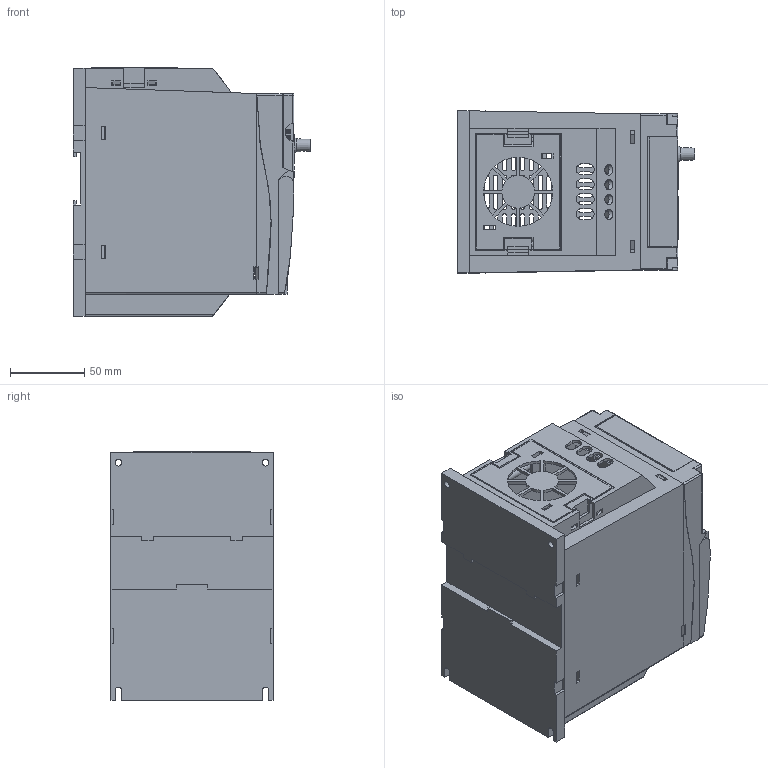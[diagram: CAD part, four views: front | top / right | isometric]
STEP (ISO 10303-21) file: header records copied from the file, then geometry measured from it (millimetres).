
FILE_DESCRIPTION(('STEP AP214'), '1');
FILE_NAME('Ïðåîáðàçîâàòåëü ÷àñòîòû _ MCI-G1.5-4B', '', ('UNSPECIFIED'), ('UNSPECIFIED'), 'C3D Converter', 'C3D Toolkit', '');
FILE_SCHEMA(('AUTOMOTIVE_DESIGN { 1 0 10303 214 3 1 1}'));
Length unit declared in the file: millimetre
Products named in the file (7): MCI-G1.5-4B; MCI-KP-S
Assembly tree (6 placements, depth 2):
  MCI-G1.5-4B
    MCI-G1.5-4B
    MCI-G1.5-4B
    MCI-G1.5-4B
    MCI-KP-S
    MCI-G1.5-4B
    MCI-G1.5-4B
Bounding box: 159.85 x 109 x 167.5 mm (x, y, z)
Volume: 414362.1 mm3; surface area: 266726.7 mm2
Topology: 6 solids, 6 shells, 1094 faces, 3018 edges, 1988 vertices
Faces by surface type: plane 863, cylinder 188, cone 22, sphere 11, torus 6, extrusion 4
Full cylindrical faces by diameter (mm): 1 x4, 2 x8, 4 x10, 4.5 x2, 5 x4, 6.5 x4, 7 x9
Entity records: 38635 total; most frequent: CARTESIAN_POINT 7344, ORIENTED_EDGE 5912, DIRECTION 5407, EDGE_CURVE 2956, VECTOR 2471, LINE 2467, VERTEX_POINT 1988, AXIS2_PLACEMENT_3D 1468
